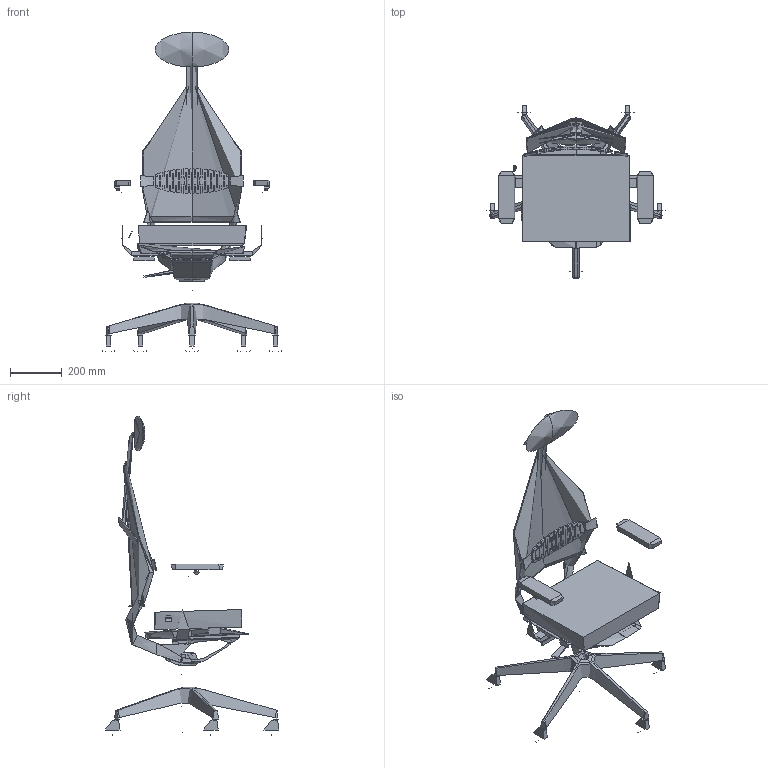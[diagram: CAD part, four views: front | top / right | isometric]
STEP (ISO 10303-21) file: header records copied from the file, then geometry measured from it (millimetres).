
FILE_DESCRIPTION(/* description */ (''),/* implementation_level */ '2;1');
FILE_NAME(/* name */ 'Arcus 240,BR-235,HO,BO',/* time_stamp */ '2024-12-20T16:33:46+01:00',/* author */ (''),/* organization */ (''),/* preprocessor_version */ 'ST-DEVELOPER v16.5',/* originating_system */ 'Rhino 7.37',/* authorisation */ '');
FILE_SCHEMA (('CONFIG_CONTROL_DESIGN'));
Length unit declared in the file: millimetre
Products named in the file (1): Document
Bounding box: 696.72 x 672.99 x 1236.9 mm (x, y, z)
Volume: 1479604.2 mm3; surface area: 2296084.2 mm2
Topology: 15 solids, 82 shells, 1219 faces, 3249 edges, 2122 vertices
Faces by surface type: plane 522, bspline 355, cylinder 342
Full cylindrical faces by diameter (mm): 8 x2, 11 x5, 11.8 x4, 12.4 x4, 18 x2, 19 x2, 22.353 x1, 28 x1, 34 x2, 46 x1, 50 x1, 57 x1, 60 x6
Entity records: 87523 total; most frequent: CARTESIAN_POINT 66633, ORIENTED_EDGE 6093, EDGE_CURVE 3244, B_SPLINE_CURVE_WITH_KNOTS 2580, VERTEX_POINT 2118, EDGE_LOOP 1287, ADVANCED_FACE 1219, FACE_OUTER_BOUND 1219
